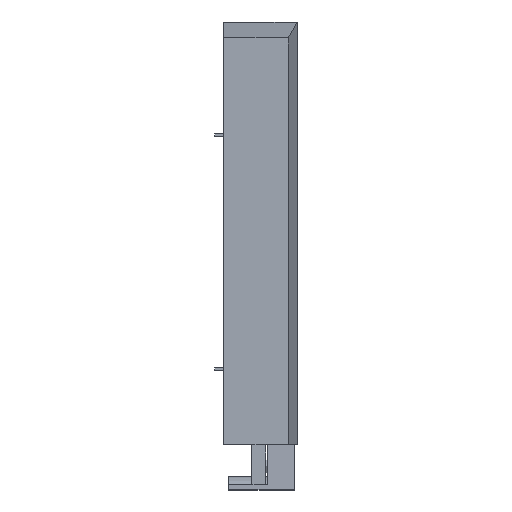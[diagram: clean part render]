
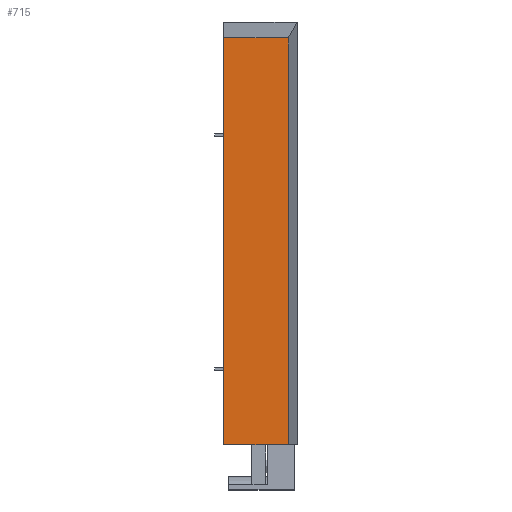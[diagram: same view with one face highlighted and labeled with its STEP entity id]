
A CAD part, top view. The second image highlights one B-rep face of the part: STEP entity #715.
In plain terms, the highlighted planar face has unit normal (0, 0, 1).
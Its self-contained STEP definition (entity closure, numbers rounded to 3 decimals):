
#36 = VECTOR ( 'NONE', #4256, 1000. ) ;
#122 = EDGE_CURVE ( 'NONE', #2803, #415, #2614, .T. ) ;
#131 = LINE ( 'NONE', #1843, #1775 ) ;
#208 = CARTESIAN_POINT ( 'NONE',  ( 35.35, -9.2, 23.136 ) ) ;
#415 = VERTEX_POINT ( 'NONE', #1263 ) ;
#451 = ORIENTED_EDGE ( 'NONE', *, *, #122, .T. ) ;
#599 = CARTESIAN_POINT ( 'NONE',  ( 40.35, -9.2, 23.136 ) ) ;
#660 = CARTESIAN_POINT ( 'NONE',  ( 35.35, 213.029, 23.136 ) ) ;
#715 = ADVANCED_FACE ( 'NONE', ( #2343 ), #3316, .F. ) ;
#801 = VECTOR ( 'NONE', #2408, 1000. ) ;
#932 = DIRECTION ( 'NONE',  ( 0., 1., 0. ) ) ;
#1008 = CARTESIAN_POINT ( 'NONE',  ( 0., 213.029, 23.136 ) ) ;
#1263 = CARTESIAN_POINT ( 'NONE',  ( 0., -9.2, 23.136 ) ) ;
#1323 = DIRECTION ( 'NONE',  ( 0., 0., -1. ) ) ;
#1454 = DIRECTION ( 'NONE',  ( 0., 1., 0. ) ) ;
#1736 = ORIENTED_EDGE ( 'NONE', *, *, #3642, .T. ) ;
#1775 = VECTOR ( 'NONE', #1454, 1000. ) ;
#1782 = CARTESIAN_POINT ( 'NONE',  ( 40.35, 213.029, 23.136 ) ) ;
#1843 = CARTESIAN_POINT ( 'NONE',  ( 35.35, 213.029, 23.136 ) ) ;
#2102 = EDGE_CURVE ( 'NONE', #4057, #2803, #2429, .T. ) ;
#2213 = ORIENTED_EDGE ( 'NONE', *, *, #2102, .T. ) ;
#2241 = LINE ( 'NONE', #599, #3994 ) ;
#2343 = FACE_OUTER_BOUND ( 'NONE', #3111, .T. ) ;
#2408 = DIRECTION ( 'NONE',  ( -1., 0., 0. ) ) ;
#2429 = LINE ( 'NONE', #1782, #801 ) ;
#2552 = ORIENTED_EDGE ( 'NONE', *, *, #3976, .F. ) ;
#2606 = AXIS2_PLACEMENT_3D ( 'NONE', #4291, #1323, #932 ) ;
#2614 = LINE ( 'NONE', #2962, #36 ) ;
#2803 = VERTEX_POINT ( 'NONE', #1008 ) ;
#2962 = CARTESIAN_POINT ( 'NONE',  ( 0., 0., 23.136 ) ) ;
#3111 = EDGE_LOOP ( 'NONE', ( #2552, #1736, #2213, #451 ) ) ;
#3159 = DIRECTION ( 'NONE',  ( -1., 0., 0. ) ) ;
#3234 = VERTEX_POINT ( 'NONE', #208 ) ;
#3316 = PLANE ( 'NONE',  #2606 ) ;
#3642 = EDGE_CURVE ( 'NONE', #3234, #4057, #131, .T. ) ;
#3976 = EDGE_CURVE ( 'NONE', #3234, #415, #2241, .T. ) ;
#3994 = VECTOR ( 'NONE', #3159, 1000. ) ;
#4057 = VERTEX_POINT ( 'NONE', #660 ) ;
#4256 = DIRECTION ( 'NONE',  ( 0., -1., 0. ) ) ;
#4291 = CARTESIAN_POINT ( 'NONE',  ( 40.35, 0., 23.136 ) ) ;
